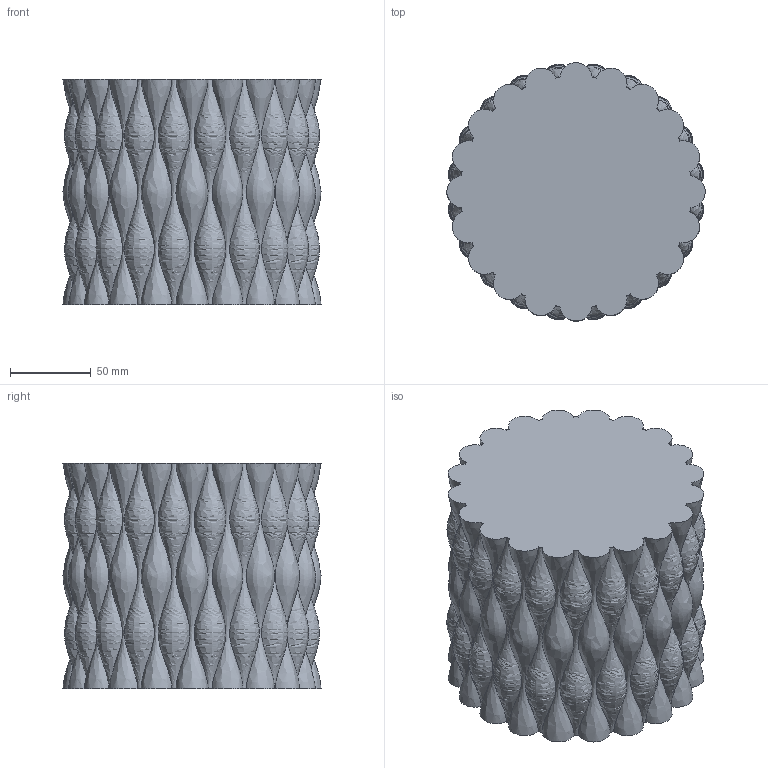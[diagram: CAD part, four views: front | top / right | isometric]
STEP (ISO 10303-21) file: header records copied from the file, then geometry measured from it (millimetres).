
FILE_DESCRIPTION(/* description */ (''),/* implementation_level */ '2;1');
FILE_NAME(/* name */ 'Fish swarm_1',/* time_stamp */ '2025-02-25T01:15:02+01:00',/* author */ (''),/* organization */ (''),/* preprocessor_version */ 'ST-DEVELOPER v16.5',/* originating_system */ 'Rhino 7.21',/* authorisation */ '');
FILE_SCHEMA (('CONFIG_CONTROL_DESIGN'));
Length unit declared in the file: millimetre
Products named in the file (1): Document
Bounding box: 160 x 160 x 140 mm (x, y, z)
Volume: 2544018.9 mm3; surface area: 126522.9 mm2
Topology: 1 solids, 1 shells, 42 faces, 120 edges, 80 vertices
Faces by surface type: bspline 40, plane 2
Entity records: 9588 total; most frequent: CARTESIAN_POINT 8884, ORIENTED_EDGE 240, EDGE_CURVE 120, VERTEX_POINT 80, ADVANCED_FACE 42, FACE_OUTER_BOUND 42, EDGE_LOOP 42, B_SPLINE_CURVE_WITH_KNOTS 40
